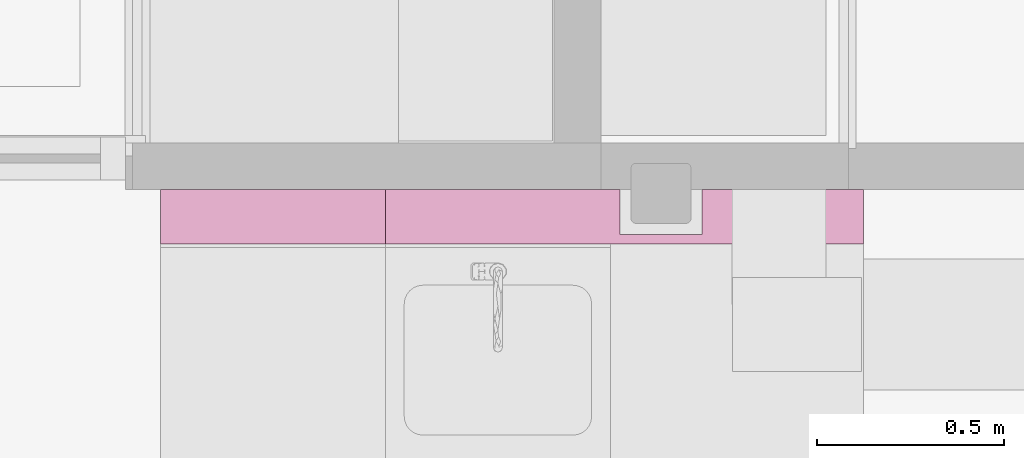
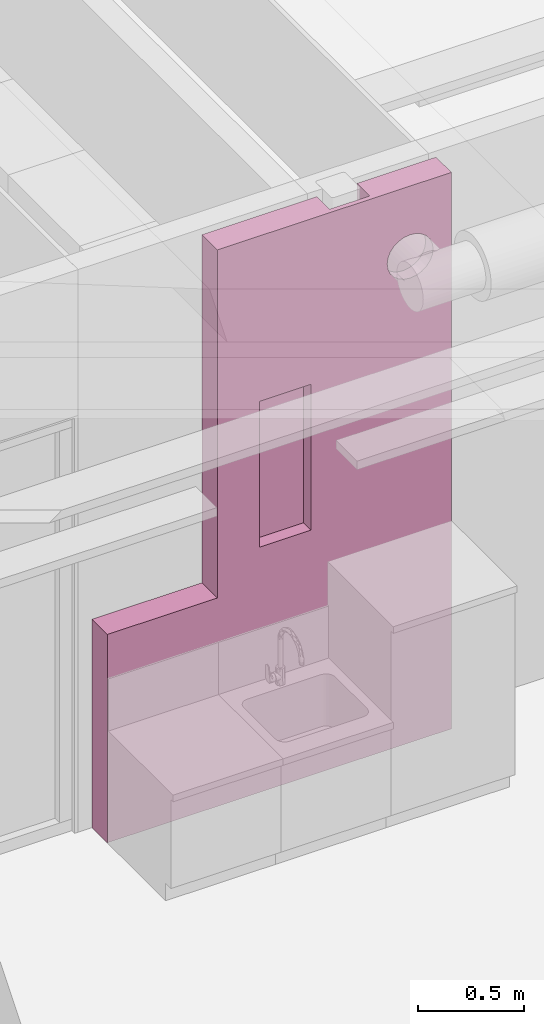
# One storey, part 94 of 128: 1 furnishing.
"""IFC2X3 building model written with IfcOpenShell, lengths in millimetres."""

from ifc_helpers import new_model, entity, si_unit, converted_unit, derived_unit, direction, frame, origin, place, context, subcontext, project, spatial, faceted_brep, source, transform, mapped, material, type_object, type_shapes, element, save


model = new_model("IFC2X3")

# Units and contexts
model_context = context("Model", 3, precision=0.01, world=origin(), true_north=direction((6.123031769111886e-17, 1.0)))
body_context = subcontext(model_context, "Body", "Model", "MODEL_VIEW")
ifc_project = project(units=[si_unit("LENGTHUNIT", "METRE", prefix="MILLI"), si_unit("AREAUNIT", "SQUARE_METRE"), si_unit("VOLUMEUNIT", "CUBIC_METRE"), converted_unit("PLANEANGLEUNIT", "DEGREE", entity("IfcRatioMeasure", 0.017453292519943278), si_unit("PLANEANGLEUNIT", "RADIAN"), dimensions=[0, 0, 0, 0, 0, 0, 0]), si_unit("MASSUNIT", "GRAM", prefix="KILO"), derived_unit("MASSDENSITYUNIT", [(si_unit("MASSUNIT", "GRAM", prefix="KILO"), 1), (si_unit("LENGTHUNIT", "METRE"), -3)]), derived_unit("IONCONCENTRATIONUNIT", [(si_unit("MASSUNIT", "GRAM", prefix="KILO"), 1), (si_unit("LENGTHUNIT", "METRE"), -3)]), derived_unit("MOMENTOFINERTIAUNIT", [(si_unit("LENGTHUNIT", "METRE"), 4)]), si_unit("TIMEUNIT", "SECOND"), si_unit("FREQUENCYUNIT", "HERTZ"), si_unit("THERMODYNAMICTEMPERATUREUNIT", "DEGREE_CELSIUS"), derived_unit("THERMALTRANSMITTANCEUNIT", [(si_unit("MASSUNIT", "GRAM", prefix="KILO"), 1), (si_unit("THERMODYNAMICTEMPERATUREUNIT", "KELVIN"), -1), (si_unit("TIMEUNIT", "SECOND"), -3)]), derived_unit("THERMALCONDUCTANCEUNIT", [(si_unit("MASSUNIT", "GRAM", prefix="KILO"), 1), (si_unit("THERMODYNAMICTEMPERATUREUNIT", "KELVIN"), -1), (si_unit("TIMEUNIT", "SECOND"), -3), (si_unit("LENGTHUNIT", "METRE"), 1)]), derived_unit("VOLUMETRICFLOWRATEUNIT", [(si_unit("LENGTHUNIT", "METRE"), 3), (si_unit("TIMEUNIT", "SECOND"), -1)]), derived_unit("MASSFLOWRATEUNIT", [(si_unit("MASSUNIT", "GRAM", prefix="KILO"), 1), (si_unit("TIMEUNIT", "SECOND"), -1)]), derived_unit("ROTATIONALFREQUENCYUNIT", [(si_unit("TIMEUNIT", "SECOND"), -1)]), si_unit("ELECTRICCURRENTUNIT", "AMPERE"), si_unit("ELECTRICVOLTAGEUNIT", "VOLT"), si_unit("POWERUNIT", "WATT"), si_unit("FORCEUNIT", "NEWTON", prefix="KILO"), si_unit("ILLUMINANCEUNIT", "LUX"), si_unit("LUMINOUSFLUXUNIT", "LUMEN"), si_unit("LUMINOUSINTENSITYUNIT", "CANDELA"), derived_unit("USERDEFINED", [(si_unit("MASSUNIT", "GRAM", prefix="KILO"), -1), (si_unit("LENGTHUNIT", "METRE"), -2), (si_unit("TIMEUNIT", "SECOND"), 3), (si_unit("LUMINOUSFLUXUNIT", "LUMEN"), 1)]), derived_unit("USERDEFINED", [(si_unit("MASSUNIT", "GRAM", prefix="KILO"), 1), (si_unit("TIMEUNIT", "SECOND"), -3), (si_unit("LENGTHUNIT", "METRE"), 3), (si_unit("ELECTRICCURRENTUNIT", "AMPERE"), -2)]), derived_unit("SOUNDPOWERUNIT", [(si_unit("MASSUNIT", "GRAM", prefix="KILO"), 1), (si_unit("TIMEUNIT", "SECOND"), -3), (si_unit("LENGTHUNIT", "METRE"), 2)]), derived_unit("SOUNDPRESSUREUNIT", [(si_unit("MASSUNIT", "GRAM", prefix="KILO"), 1), (si_unit("LENGTHUNIT", "METRE"), -1), (si_unit("TIMEUNIT", "SECOND"), -2)]), derived_unit("LINEARVELOCITYUNIT", [(si_unit("LENGTHUNIT", "METRE"), 1), (si_unit("TIMEUNIT", "SECOND"), -1)]), si_unit("PRESSUREUNIT", "PASCAL"), derived_unit("USERDEFINED", [(si_unit("MASSUNIT", "GRAM", prefix="KILO"), 1), (si_unit("LENGTHUNIT", "METRE"), -2), (si_unit("TIMEUNIT", "SECOND"), -2)]), derived_unit("LINEARFORCEUNIT", [(si_unit("MASSUNIT", "GRAM", prefix="KILO"), 1), (si_unit("TIMEUNIT", "SECOND"), -2)]), derived_unit("PLANARFORCEUNIT", [(si_unit("MASSUNIT", "GRAM", prefix="KILO"), 1), (si_unit("LENGTHUNIT", "METRE"), -1), (si_unit("TIMEUNIT", "SECOND"), -2)]), derived_unit("SPECIFICHEATCAPACITYUNIT", [(si_unit("THERMODYNAMICTEMPERATUREUNIT", "KELVIN"), -1), (si_unit("LENGTHUNIT", "METRE"), 2), (si_unit("TIMEUNIT", "SECOND"), -2)]), derived_unit("HEATINGVALUEUNIT", [(si_unit("LENGTHUNIT", "METRE"), 2), (si_unit("TIMEUNIT", "SECOND"), -2)]), derived_unit("VAPORPERMEABILITYUNIT", [(si_unit("LENGTHUNIT", "METRE"), -1), (si_unit("TIMEUNIT", "SECOND"), 1)]), derived_unit("DYNAMICVISCOSITYUNIT", [(si_unit("MASSUNIT", "GRAM", prefix="KILO"), 1), (si_unit("TIMEUNIT", "SECOND"), -1), (si_unit("LENGTHUNIT", "METRE"), -1)]), derived_unit("THERMALEXPANSIONCOEFFICIENTUNIT", [(si_unit("THERMODYNAMICTEMPERATUREUNIT", "KELVIN"), -1)]), derived_unit("MODULUSOFELASTICITYUNIT", [(si_unit("MASSUNIT", "GRAM", prefix="KILO"), 1), (si_unit("LENGTHUNIT", "METRE"), -1), (si_unit("TIMEUNIT", "SECOND"), -2)]), derived_unit("ISOTHERMALMOISTURECAPACITYUNIT", [(si_unit("LENGTHUNIT", "METRE"), 3), (si_unit("MASSUNIT", "GRAM", prefix="KILO"), -1)]), derived_unit("MOISTUREDIFFUSIVITYUNIT", [(si_unit("TIMEUNIT", "SECOND"), -1), (si_unit("LENGTHUNIT", "METRE"), 2)])], contexts=[model_context])

# Site, building, storey, space
site_placement = place(None, frame((0.0, 300.0, 0.0)))
site = spatial("IfcSite", under=ifc_project, at=site_placement, Name="<Kadastrale nummers>", CompositionType="ELEMENT")
building_placement = place(site_placement, origin())
building = spatial("IfcBuilding", under=site, at=building_placement, CompositionType="ELEMENT")
storey_placement = place(building_placement, frame((0.0, 0.0, 3560.0000331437)))
storey = spatial("IfcBuildingStorey", under=building, at=storey_placement, Name="01 eerste verdieping", CompositionType="ELEMENT", Elevation=3560.0000331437)
space_placement = place(storey_placement, origin())
space = spatial("IfcSpace", under=storey, at=space_placement, Name="1.24", CompositionType="ELEMENT", InteriorOrExteriorSpace="INTERNAL")

# Furnishing
ifc_material = material(Name="ISR_RAL 9010")
furniture_type = type_object("IfcFurnitureType", Name="Furniture 3:Furniture 2", material=ifc_material)
shared_shape = source(origin(), body_context, "Body", "Brep", [
    faceted_brep([(1875.0, 145.0, 3205.0000289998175), (1445.0, 145.0, 3205.0000289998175), (1445.0, 25.0, 3205.0000289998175), (1225.0, 25.0, 3205.0000289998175), (1225.0, 145.0, 3205.0000289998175), (600.0, 145.0, 3205.0000289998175), (600.0, 0.0, 3205.0000289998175), (1875.0, 0.0, 3205.0000289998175), (0.0, 145.0, 0.0), (1225.0, 145.0, 0.0), (1225.0, 25.0, 0.0), (1445.0, 25.0, 0.0), (1445.0, 145.0, 0.0), (1875.0, 145.0, 0.0), (1875.0, 0.0, 0.0), (0.0, 0.0, 0.0), (0.0, 145.0, 1200.0), (600.0, 145.0, 1200.0), (600.0, 0.0, 1200.0), (1561.6116523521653, 0.0, 2888.388347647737), (1587.5000000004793, 0.0, 2908.2531754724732), (1541.7468245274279, 0.0, 2862.4999999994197), (1529.2592717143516, 0.0, 2832.3523806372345), (1525.0, 0.0, 2800.0), (1108.9136115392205, 0.0, 2252.5947403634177), (828.9136115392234, 0.0, 2252.5947403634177), (828.9136115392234, 0.0, 1412.594740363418), (1108.9136115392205, 0.0, 1412.594740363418), (0.0, 0.0, 1200.0), (1770.7407282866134, 0.0, 2767.647619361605), (1738.3883476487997, 0.0, 2711.6116523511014), (1758.253175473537, 0.0, 2737.4999999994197), (1775.0, 0.0, 2800.0), (1712.5000000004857, 0.0, 2691.746824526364), (1682.3523806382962, 0.0, 2679.2592717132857), (1650.0, 0.0, 2675.0), (1617.6476193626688, 0.0, 2679.2592717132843), (1587.5000000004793, 0.0, 2691.746824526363), (1561.6116523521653, 0.0, 2711.611652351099), (1541.7468245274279, 0.0, 2737.499999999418), (1529.2592717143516, 0.0, 2767.6476193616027), (1617.6476193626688, 0.0, 2920.740728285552), (1650.0, 0.0, 2925.0), (1682.3523806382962, 0.0, 2920.740728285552), (1712.5000000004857, 0.0, 2908.2531754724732), (1738.3883476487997, 0.0, 2888.388347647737), (1758.253175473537, 0.0, 2862.4999999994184), (1770.7407282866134, 0.0, 2832.3523806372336), (1108.9136115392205, 70.0, 1412.594740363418), (1108.9136115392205, 70.0, 2252.5947403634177), (828.9136115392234, 70.0, 2252.5947403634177), (828.9136115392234, 70.0, 1412.594740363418), (1561.6116523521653, 70.0, 2711.611652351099), (1587.5000000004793, 70.0, 2691.746824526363), (1617.6476193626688, 70.0, 2679.2592717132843), (1650.0, 70.0, 2675.0), (1682.3523806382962, 70.0, 2679.2592717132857), (1712.5000000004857, 70.0, 2691.746824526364), (1738.3883476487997, 70.0, 2711.6116523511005), (1758.253175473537, 70.0, 2737.499999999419), (1770.7407282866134, 70.0, 2767.647619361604), (1775.0, 70.0, 2800.0), (1770.7407282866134, 70.0, 2832.3523806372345), (1758.253175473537, 70.0, 2862.4999999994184), (1738.3883476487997, 70.0, 2888.388347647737), (1712.5000000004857, 70.0, 2908.2531754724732), (1682.3523806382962, 70.0, 2920.740728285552), (1650.0, 70.0, 2925.0), (1617.6476193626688, 70.0, 2920.740728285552), (1587.5000000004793, 70.0, 2908.2531754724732), (1561.6116523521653, 70.0, 2888.388347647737), (1541.7468245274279, 70.0, 2862.4999999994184), (1529.2592717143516, 70.0, 2832.3523806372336), (1525.0, 70.0, 2800.0), (1529.2592717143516, 70.0, 2767.6476193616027), (1541.7468245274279, 70.0, 2737.499999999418)], [[[0, 1, 2, 3, 4, 5, 6, 7]], [[8, 9, 10, 11, 12, 13, 14, 15]], [[1, 0, 13, 12]], [[4, 9, 8, 16, 17, 5]], [[2, 1, 12, 11]], [[3, 2, 11, 10]], [[4, 3, 10, 9]], [[6, 5, 17, 18]], [[6, 19, 20]], [[19, 6, 21]], [[6, 20, 7]], [[22, 21, 6]], [[23, 22, 6]], [[23, 6, 24]], [[24, 6, 25]], [[6, 18, 25]], [[25, 18, 26]], [[27, 26, 18]], [[14, 27, 18]], [[18, 15, 14]], [[28, 15, 18]], [[7, 29, 14]], [[30, 27, 14]], [[31, 30, 14]], [[31, 14, 29]], [[32, 29, 7]], [[27, 30, 33]], [[27, 33, 34]], [[34, 24, 27]], [[35, 24, 34]], [[35, 36, 24]], [[37, 24, 36]], [[38, 24, 37]], [[24, 38, 39]], [[39, 40, 24]], [[24, 40, 23]], [[7, 20, 41]], [[42, 7, 41]], [[42, 43, 7]], [[44, 7, 43]], [[7, 44, 45]], [[45, 46, 7]], [[46, 47, 7]], [[47, 32, 7]], [[0, 7, 14, 13]], [[48, 49, 50, 51]], [[52, 53, 54, 55, 56, 57, 58, 59, 60, 61, 62, 63, 64, 65, 66, 67, 68, 69, 70, 71, 72, 73, 74, 75]], [[24, 49, 48, 27]], [[27, 48, 51, 26]], [[26, 51, 50, 25]], [[24, 25, 50, 49]], [[18, 17, 16, 28]], [[28, 16, 8, 15]], [[30, 31, 59, 58]], [[31, 29, 60, 59]], [[34, 33, 57, 56]], [[57, 33, 30, 58]], [[34, 56, 55, 35]], [[60, 29, 32, 61]], [[53, 52, 38, 37]], [[54, 53, 37, 36]], [[74, 73, 23, 40]], [[75, 74, 40, 39]], [[52, 75, 39, 38]], [[36, 35, 55, 54]], [[19, 21, 71, 70]], [[71, 21, 22, 72]], [[41, 20, 69, 68]], [[69, 20, 19, 70]], [[67, 42, 41, 68]], [[72, 22, 23, 73]], [[44, 43, 66, 65]], [[45, 44, 65, 64]], [[62, 61, 32, 47]], [[63, 62, 47, 46]], [[64, 63, 46, 45]], [[43, 42, 67, 66]]]),
])
type_shapes(furniture_type, [shared_shape])
furnishing_placement = place(space_placement, frame((40065.0, 9164.998623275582, 90.00000187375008)))
element("IfcFurnishingElement", 1, at=furnishing_placement, inside=space, type_object=furniture_type, material=ifc_material, Name="Furniture 3:Furniture 2", ObjectType="Furniture 3:Furniture 2", context=body_context, shape_type="MappedRepresentation", body=[
    mapped(shared_shape, transform((0.0, 0.0, 0.0), scale=1.0)),
])

save(model, "model.ifc")
